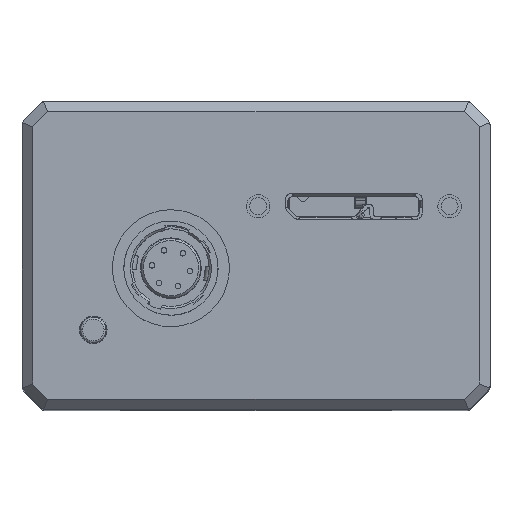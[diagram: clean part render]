
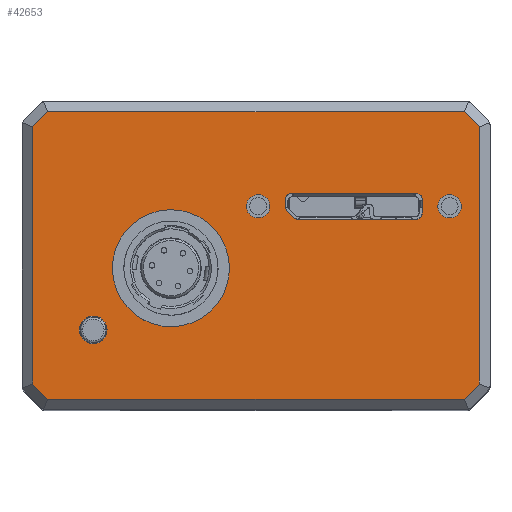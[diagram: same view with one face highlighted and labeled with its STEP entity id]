
A CAD part, top view. The second image highlights one B-rep face of the part: STEP entity #42653.
In plain terms, the highlighted planar face has unit normal (0, 0, 1).
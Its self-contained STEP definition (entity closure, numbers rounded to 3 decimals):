
#15559=DIRECTION('',(0.,-1.,0.));
#15560=VECTOR('',#15559,24.172);
#15561=CARTESIAN_POINT('',(21.,12.086,59.));
#15562=LINE('',#15561,#15560);
#15563=DIRECTION('',(-0.707,-0.707,0.));
#15564=VECTOR('',#15563,2.);
#15565=CARTESIAN_POINT('',(21.,-12.086,59.));
#15566=LINE('',#15565,#15564);
#15567=DIRECTION('',(-0.707,0.707,0.));
#15568=VECTOR('',#15567,2.);
#15569=CARTESIAN_POINT('',(-19.586,-13.5,59.));
#15570=LINE('',#15569,#15568);
#15571=DIRECTION('',(0.707,0.707,0.));
#15572=VECTOR('',#15571,2.);
#15573=CARTESIAN_POINT('',(-21.,12.086,59.));
#15574=LINE('',#15573,#15572);
#15575=DIRECTION('',(0.707,-0.707,0.));
#15576=VECTOR('',#15575,2.);
#15577=CARTESIAN_POINT('',(19.586,13.5,59.));
#15578=LINE('',#15577,#15576);
#15579=CARTESIAN_POINT('',(-15.3,-7.,59.));
#15580=DIRECTION('',(0.,0.,1.));
#15581=DIRECTION('',(1.,0.,0.));
#15582=AXIS2_PLACEMENT_3D('',#15579,#15580,#15581);
#15584=CARTESIAN_POINT('',(-15.3,-7.,59.));
#15585=DIRECTION('',(0.,0.,1.));
#15586=DIRECTION('',(-1.,0.,0.));
#15587=AXIS2_PLACEMENT_3D('',#15584,#15585,#15586);
#15589=CARTESIAN_POINT('',(15.025,5.25,59.));
#15590=DIRECTION('',(0.,0.,1.));
#15591=DIRECTION('',(1.,0.,0.));
#15592=AXIS2_PLACEMENT_3D('',#15589,#15590,#15591);
#15594=CARTESIAN_POINT('',(3.375,5.25,59.));
#15595=DIRECTION('',(0.,0.,1.));
#15596=DIRECTION('',(0.,1.,0.));
#15597=AXIS2_PLACEMENT_3D('',#15594,#15595,#15596);
#15599=CARTESIAN_POINT('',(3.375,4.574,59.));
#15600=DIRECTION('',(0.,0.,1.));
#15601=DIRECTION('',(-1.,0.,0.));
#15602=AXIS2_PLACEMENT_3D('',#15599,#15600,#15601);
#15604=DIRECTION('',(0.707,-0.707,0.));
#15605=VECTOR('',#15604,0.812);
#15606=CARTESIAN_POINT('',(2.951,4.15,59.));
#15607=LINE('',#15606,#15605);
#15608=CARTESIAN_POINT('',(3.949,4.,59.));
#15609=DIRECTION('',(0.,0.,1.));
#15610=DIRECTION('',(-0.707,-0.707,0.));
#15611=AXIS2_PLACEMENT_3D('',#15608,#15609,#15610);
#15613=CARTESIAN_POINT('',(15.025,4.,59.));
#15614=DIRECTION('',(0.,0.,1.));
#15615=DIRECTION('',(0.,-1.,0.));
#15616=AXIS2_PLACEMENT_3D('',#15613,#15614,#15615);
#15618=CARTESIAN_POINT('',(0.2,4.625,59.));
#15619=DIRECTION('',(0.,0.,1.));
#15620=DIRECTION('',(1.,0.,0.));
#15621=AXIS2_PLACEMENT_3D('',#15618,#15619,#15620);
#15623=CARTESIAN_POINT('',(0.2,4.625,59.));
#15624=DIRECTION('',(0.,0.,1.));
#15625=DIRECTION('',(-1.,0.,0.));
#15626=AXIS2_PLACEMENT_3D('',#15623,#15624,#15625);
#15628=CARTESIAN_POINT('',(18.2,4.625,59.));
#15629=DIRECTION('',(0.,0.,1.));
#15630=DIRECTION('',(1.,0.,0.));
#15631=AXIS2_PLACEMENT_3D('',#15628,#15629,#15630);
#15633=CARTESIAN_POINT('',(18.2,4.625,59.));
#15634=DIRECTION('',(0.,0.,1.));
#15635=DIRECTION('',(-1.,0.,0.));
#15636=AXIS2_PLACEMENT_3D('',#15633,#15634,#15635);
#15638=CARTESIAN_POINT('',(-8.,-1.2,59.));
#15639=DIRECTION('',(0.,0.,1.));
#15640=DIRECTION('',(0.989,-0.151,0.));
#15641=AXIS2_PLACEMENT_3D('',#15638,#15639,#15640);
#15643=CARTESIAN_POINT('',(-8.,-1.2,59.));
#15644=DIRECTION('',(0.,0.,1.));
#15645=DIRECTION('',(-0.989,0.151,0.));
#15646=AXIS2_PLACEMENT_3D('',#15643,#15644,#15645);
#15803=DIRECTION('',(-1.,0.,0.));
#15804=VECTOR('',#15803,39.172);
#15805=CARTESIAN_POINT('',(19.586,13.5,59.));
#15806=LINE('',#15805,#15804);
#15842=DIRECTION('',(0.,-1.,0.));
#15843=VECTOR('',#15842,24.172);
#15844=CARTESIAN_POINT('',(-21.,12.086,59.));
#15845=LINE('',#15844,#15843);
#15970=DIRECTION('',(1.,0.,0.));
#15971=VECTOR('',#15970,39.172);
#15972=CARTESIAN_POINT('',(-19.586,-13.5,59.));
#15973=LINE('',#15972,#15971);
#22549=DIRECTION('',(1.,0.,0.));
#22550=VECTOR('',#22549,11.65);
#22551=CARTESIAN_POINT('',(3.375,5.85,59.));
#22552=LINE('',#22551,#22550);
#22565=DIRECTION('',(0.,1.,0.));
#22566=VECTOR('',#22565,0.676);
#22567=CARTESIAN_POINT('',(2.775,4.574,59.));
#22568=LINE('',#22567,#22566);
#22585=DIRECTION('',(-1.,0.,0.));
#22586=VECTOR('',#22585,11.076);
#22587=CARTESIAN_POINT('',(15.025,3.4,59.));
#22588=LINE('',#22587,#22586);
#22597=DIRECTION('',(0.,-1.,0.));
#22598=VECTOR('',#22597,1.25);
#22599=CARTESIAN_POINT('',(15.625,5.25,59.));
#22600=LINE('',#22599,#22598);
#24321=CARTESIAN_POINT('',(21.,12.086,59.));
#24322=CARTESIAN_POINT('',(21.,-12.086,59.));
#24323=VERTEX_POINT('',#24321);
#24324=VERTEX_POINT('',#24322);
#24325=CARTESIAN_POINT('',(19.586,-13.5,59.));
#24326=VERTEX_POINT('',#24325);
#24327=CARTESIAN_POINT('',(-19.586,-13.5,59.));
#24328=CARTESIAN_POINT('',(-21.,-12.086,59.));
#24329=VERTEX_POINT('',#24327);
#24330=VERTEX_POINT('',#24328);
#24331=CARTESIAN_POINT('',(-21.,12.086,59.));
#24332=CARTESIAN_POINT('',(-19.586,13.5,59.));
#24333=VERTEX_POINT('',#24331);
#24334=VERTEX_POINT('',#24332);
#24335=CARTESIAN_POINT('',(19.586,13.5,59.));
#24336=VERTEX_POINT('',#24335);
#24337=CARTESIAN_POINT('',(-14.,-7.,59.));
#24338=CARTESIAN_POINT('',(-16.6,-7.,59.));
#24339=VERTEX_POINT('',#24337);
#24340=VERTEX_POINT('',#24338);
#24341=CARTESIAN_POINT('',(15.625,5.25,59.));
#24342=CARTESIAN_POINT('',(15.025,5.85,59.));
#24343=VERTEX_POINT('',#24341);
#24344=VERTEX_POINT('',#24342);
#24345=CARTESIAN_POINT('',(3.375,5.85,59.));
#24346=CARTESIAN_POINT('',(2.775,5.25,59.));
#24347=VERTEX_POINT('',#24345);
#24348=VERTEX_POINT('',#24346);
#24349=CARTESIAN_POINT('',(2.775,4.574,59.));
#24350=CARTESIAN_POINT('',(2.951,4.15,59.));
#24351=VERTEX_POINT('',#24349);
#24352=VERTEX_POINT('',#24350);
#24353=CARTESIAN_POINT('',(3.525,3.576,59.));
#24354=VERTEX_POINT('',#24353);
#24355=CARTESIAN_POINT('',(3.949,3.4,59.));
#24356=VERTEX_POINT('',#24355);
#24357=CARTESIAN_POINT('',(15.025,3.4,59.));
#24358=CARTESIAN_POINT('',(15.625,4.,59.));
#24359=VERTEX_POINT('',#24357);
#24360=VERTEX_POINT('',#24358);
#24361=CARTESIAN_POINT('',(1.3,4.625,59.));
#24362=CARTESIAN_POINT('',(-0.9,4.625,59.));
#24363=VERTEX_POINT('',#24361);
#24364=VERTEX_POINT('',#24362);
#24365=CARTESIAN_POINT('',(19.3,4.625,59.));
#24366=CARTESIAN_POINT('',(17.1,4.625,59.));
#24367=VERTEX_POINT('',#24365);
#24368=VERTEX_POINT('',#24366);
#24369=CARTESIAN_POINT('',(-2.563,-2.028,59.));
#24370=CARTESIAN_POINT('',(-13.437,-0.372,59.));
#24371=VERTEX_POINT('',#24369);
#24372=VERTEX_POINT('',#24370);
#42585=CARTESIAN_POINT('',(0.,0.,59.));
#42586=DIRECTION('',(0.,0.,1.));
#42587=DIRECTION('',(1.,0.,0.));
#42588=AXIS2_PLACEMENT_3D('',#42585,#42586,#42587);
#42589=PLANE('',#42588);
#42591=ORIENTED_EDGE('',*,*,#42590,.T.);
#42593=ORIENTED_EDGE('',*,*,#42592,.T.);
#42595=ORIENTED_EDGE('',*,*,#42594,.F.);
#42597=ORIENTED_EDGE('',*,*,#42596,.T.);
#42599=ORIENTED_EDGE('',*,*,#42598,.F.);
#42601=ORIENTED_EDGE('',*,*,#42600,.T.);
#42603=ORIENTED_EDGE('',*,*,#42602,.F.);
#42605=ORIENTED_EDGE('',*,*,#42604,.T.);
#42606=EDGE_LOOP('',(#42591,#42593,#42595,#42597,#42599,#42601,#42603,#42605));
#42607=FACE_OUTER_BOUND('',#42606,.F.);
#42609=ORIENTED_EDGE('',*,*,#42608,.T.);
#42611=ORIENTED_EDGE('',*,*,#42610,.T.);
#42612=EDGE_LOOP('',(#42609,#42611));
#42613=FACE_BOUND('',#42612,.F.);
#42614=ORIENTED_EDGE('',*,*,#42575,.T.);
#42616=ORIENTED_EDGE('',*,*,#42615,.F.);
#42618=ORIENTED_EDGE('',*,*,#42617,.T.);
#42620=ORIENTED_EDGE('',*,*,#42619,.F.);
#42622=ORIENTED_EDGE('',*,*,#42621,.T.);
#42624=ORIENTED_EDGE('',*,*,#42623,.T.);
#42626=ORIENTED_EDGE('',*,*,#42625,.T.);
#42628=ORIENTED_EDGE('',*,*,#42627,.F.);
#42630=ORIENTED_EDGE('',*,*,#42629,.T.);
#42632=ORIENTED_EDGE('',*,*,#42631,.F.);
#42633=EDGE_LOOP('',(#42614,#42616,#42618,#42620,#42622,#42624,#42626,#42628,
#42630,#42632));
#42634=FACE_BOUND('',#42633,.F.);
#42636=ORIENTED_EDGE('',*,*,#42635,.T.);
#42638=ORIENTED_EDGE('',*,*,#42637,.T.);
#42639=EDGE_LOOP('',(#42636,#42638));
#42640=FACE_BOUND('',#42639,.F.);
#42642=ORIENTED_EDGE('',*,*,#42641,.T.);
#42644=ORIENTED_EDGE('',*,*,#42643,.T.);
#42645=EDGE_LOOP('',(#42642,#42644));
#42646=FACE_BOUND('',#42645,.F.);
#42648=ORIENTED_EDGE('',*,*,#42647,.T.);
#42650=ORIENTED_EDGE('',*,*,#42649,.T.);
#42651=EDGE_LOOP('',(#42648,#42650));
#42652=FACE_BOUND('',#42651,.F.);
#42653=ADVANCED_FACE('',(#42607,#42613,#42634,#42640,#42646,#42652),#42589,.T.);
#15583=CIRCLE('',#15582,1.3);
#15588=CIRCLE('',#15587,1.3);
#15593=CIRCLE('',#15592,0.6);
#15598=CIRCLE('',#15597,0.6);
#15603=CIRCLE('',#15602,0.6);
#15612=CIRCLE('',#15611,0.6);
#15617=CIRCLE('',#15616,0.6);
#15622=CIRCLE('',#15621,1.1);
#15627=CIRCLE('',#15626,1.1);
#15632=CIRCLE('',#15631,1.1);
#15637=CIRCLE('',#15636,1.1);
#15642=CIRCLE('',#15641,5.5);
#15647=CIRCLE('',#15646,5.5);
#42575=EDGE_CURVE('',#24343,#24344,#15593,.T.);
#42590=EDGE_CURVE('',#24323,#24324,#15562,.T.);
#42592=EDGE_CURVE('',#24324,#24326,#15566,.T.);
#42594=EDGE_CURVE('',#24329,#24326,#15973,.T.);
#42596=EDGE_CURVE('',#24329,#24330,#15570,.T.);
#42598=EDGE_CURVE('',#24333,#24330,#15845,.T.);
#42600=EDGE_CURVE('',#24333,#24334,#15574,.T.);
#42602=EDGE_CURVE('',#24336,#24334,#15806,.T.);
#42604=EDGE_CURVE('',#24336,#24323,#15578,.T.);
#42608=EDGE_CURVE('',#24339,#24340,#15583,.T.);
#42610=EDGE_CURVE('',#24340,#24339,#15588,.T.);
#42615=EDGE_CURVE('',#24347,#24344,#22552,.T.);
#42617=EDGE_CURVE('',#24347,#24348,#15598,.T.);
#42619=EDGE_CURVE('',#24351,#24348,#22568,.T.);
#42621=EDGE_CURVE('',#24351,#24352,#15603,.T.);
#42623=EDGE_CURVE('',#24352,#24354,#15607,.T.);
#42625=EDGE_CURVE('',#24354,#24356,#15612,.T.);
#42627=EDGE_CURVE('',#24359,#24356,#22588,.T.);
#42629=EDGE_CURVE('',#24359,#24360,#15617,.T.);
#42631=EDGE_CURVE('',#24343,#24360,#22600,.T.);
#42635=EDGE_CURVE('',#24363,#24364,#15622,.T.);
#42637=EDGE_CURVE('',#24364,#24363,#15627,.T.);
#42641=EDGE_CURVE('',#24367,#24368,#15632,.T.);
#42643=EDGE_CURVE('',#24368,#24367,#15637,.T.);
#42647=EDGE_CURVE('',#24371,#24372,#15642,.T.);
#42649=EDGE_CURVE('',#24372,#24371,#15647,.T.);
